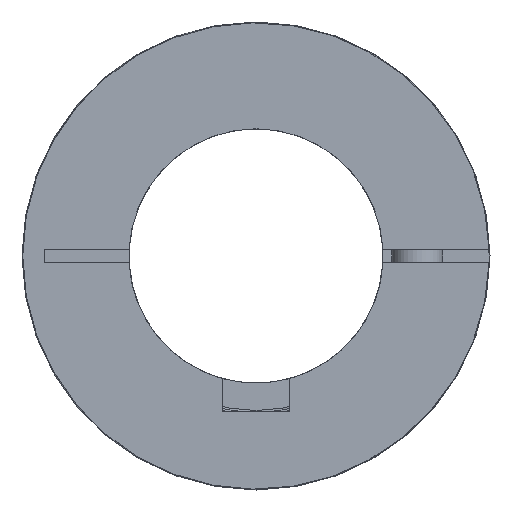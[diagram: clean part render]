
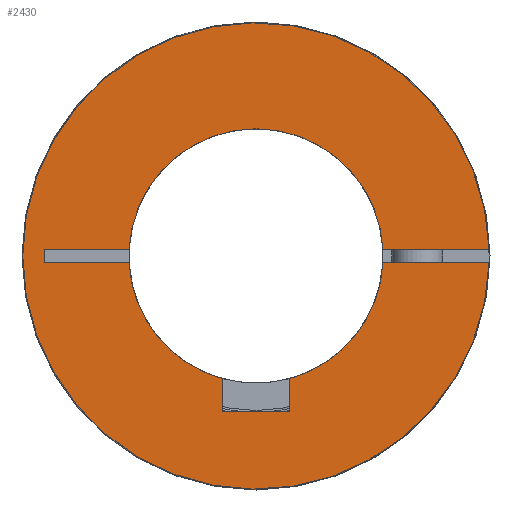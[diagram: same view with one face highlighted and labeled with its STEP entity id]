
A CAD part, left-side view. The second image highlights one B-rep face of the part: STEP entity #2430.
In plain terms, the highlighted planar face has unit normal (-1, 0, 0).
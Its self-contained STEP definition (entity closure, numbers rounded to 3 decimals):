
#88=PLANE('',#2715);
#184=LINE('',#4124,#294);
#186=LINE('',#4128,#296);
#188=LINE('',#4131,#298);
#198=LINE('',#4154,#308);
#201=LINE('',#4164,#311);
#204=LINE('',#4170,#314);
#205=LINE('',#4171,#315);
#206=LINE('',#4173,#316);
#294=VECTOR('',#3257,1.);
#296=VECTOR('',#3261,1.);
#298=VECTOR('',#3265,1.);
#308=VECTOR('',#3289,1000.);
#311=VECTOR('',#3298,1000.);
#314=VECTOR('',#3303,1000.);
#315=VECTOR('',#3304,1000.);
#316=VECTOR('',#3305,1000.);
#435=FACE_OUTER_BOUND('',#583,.T.);
#583=EDGE_LOOP('',(#1818,#1819,#1820,#1821,#1822,#1823,#1824,#1825,#1826,
#1827,#1828,#1829));
#856=CIRCLE('',#2692,15.);
#858=CIRCLE('',#2694,15.);
#859=CIRCLE('',#2696,15.);
#867=CIRCLE('',#2716,27.5);
#1089=VERTEX_POINT('',#4084);
#1090=VERTEX_POINT('',#4086);
#1093=VERTEX_POINT('',#4092);
#1094=VERTEX_POINT('',#4094);
#1095=VERTEX_POINT('',#4098);
#1096=VERTEX_POINT('',#4099);
#1105=VERTEX_POINT('',#4122);
#1106=VERTEX_POINT('',#4126);
#1112=VERTEX_POINT('',#4153);
#1116=VERTEX_POINT('',#4163);
#1118=VERTEX_POINT('',#4169);
#1119=VERTEX_POINT('',#4172);
#1376=EDGE_CURVE('',#1090,#1089,#856,.T.);
#1380=EDGE_CURVE('',#1094,#1093,#858,.T.);
#1382=EDGE_CURVE('',#1095,#1096,#859,.T.);
#1394=EDGE_CURVE('',#1093,#1105,#184,.T.);
#1396=EDGE_CURVE('',#1105,#1106,#186,.T.);
#1398=EDGE_CURVE('',#1106,#1090,#188,.T.);
#1410=EDGE_CURVE('',#1094,#1112,#198,.T.);
#1415=EDGE_CURVE('',#1116,#1095,#201,.T.);
#1418=EDGE_CURVE('',#1118,#1089,#204,.T.);
#1419=EDGE_CURVE('',#1116,#1118,#205,.T.);
#1420=EDGE_CURVE('',#1096,#1119,#206,.T.);
#1421=EDGE_CURVE('',#1119,#1112,#867,.T.);
#1818=ORIENTED_EDGE('',*,*,#1380,.T.);
#1819=ORIENTED_EDGE('',*,*,#1394,.T.);
#1820=ORIENTED_EDGE('',*,*,#1396,.T.);
#1821=ORIENTED_EDGE('',*,*,#1398,.T.);
#1822=ORIENTED_EDGE('',*,*,#1376,.T.);
#1823=ORIENTED_EDGE('',*,*,#1418,.F.);
#1824=ORIENTED_EDGE('',*,*,#1419,.F.);
#1825=ORIENTED_EDGE('',*,*,#1415,.T.);
#1826=ORIENTED_EDGE('',*,*,#1382,.T.);
#1827=ORIENTED_EDGE('',*,*,#1420,.T.);
#1828=ORIENTED_EDGE('',*,*,#1421,.T.);
#1829=ORIENTED_EDGE('',*,*,#1410,.F.);
#2430=ADVANCED_FACE('',(#435),#88,.T.);
#2692=AXIS2_PLACEMENT_3D('',#4087,#3224,#3225);
#2694=AXIS2_PLACEMENT_3D('',#4095,#3230,#3231);
#2696=AXIS2_PLACEMENT_3D('',#4100,#3235,#3236);
#2715=AXIS2_PLACEMENT_3D('',#4168,#3301,#3302);
#2716=AXIS2_PLACEMENT_3D('',#4174,#3306,#3307);
#3224=DIRECTION('center_axis',(1.,0.,0.));
#3225=DIRECTION('ref_axis',(0.,0.,-1.));
#3230=DIRECTION('center_axis',(1.,0.,0.));
#3231=DIRECTION('ref_axis',(0.,0.,-1.));
#3235=DIRECTION('center_axis',(1.,0.,0.));
#3236=DIRECTION('ref_axis',(0.,0.,-1.));
#3257=DIRECTION('',(0.,0.,-1.));
#3261=DIRECTION('',(0.,1.,0.));
#3265=DIRECTION('',(0.,0.,1.));
#3289=DIRECTION('',(0.,-1.,0.));
#3298=DIRECTION('',(0.,-1.,0.));
#3301=DIRECTION('center_axis',(-1.,0.,0.));
#3302=DIRECTION('ref_axis',(0.,1.,0.));
#3303=DIRECTION('',(0.,-1.,0.));
#3304=DIRECTION('',(0.,0.,-1.));
#3305=DIRECTION('',(0.,-1.,0.));
#3306=DIRECTION('center_axis',(-1.,0.,0.));
#3307=DIRECTION('ref_axis',(0.,1.,0.));
#4084=CARTESIAN_POINT('',(0.,14.981,-0.75));
#4086=CARTESIAN_POINT('',(0.,4.,-14.457));
#4087=CARTESIAN_POINT('Origin',(0.,0.,0.));
#4092=CARTESIAN_POINT('',(0.,-4.,-14.457));
#4094=CARTESIAN_POINT('',(0.,-14.981,-0.75));
#4095=CARTESIAN_POINT('Origin',(0.,0.,0.));
#4098=CARTESIAN_POINT('',(0.,14.981,0.75));
#4099=CARTESIAN_POINT('',(0.,-14.981,0.75));
#4100=CARTESIAN_POINT('Origin',(0.,0.,0.));
#4122=CARTESIAN_POINT('',(0.,-4.,-18.3));
#4124=CARTESIAN_POINT('',(0.,-4.,-7.075));
#4126=CARTESIAN_POINT('',(0.,4.,-18.3));
#4128=CARTESIAN_POINT('',(0.,0.,-18.3));
#4131=CARTESIAN_POINT('',(0.,4.,-7.075));
#4153=CARTESIAN_POINT('',(0.,-27.49,-0.75));
#4154=CARTESIAN_POINT('',(0.,25.,-0.75));
#4163=CARTESIAN_POINT('',(0.,25.,0.75));
#4164=CARTESIAN_POINT('',(0.,25.,0.75));
#4168=CARTESIAN_POINT('Origin',(0.,0.,-5.));
#4169=CARTESIAN_POINT('',(0.,25.,-0.75));
#4170=CARTESIAN_POINT('',(0.,25.,-0.75));
#4171=CARTESIAN_POINT('',(0.,25.,0.75));
#4172=CARTESIAN_POINT('',(0.,-27.49,0.75));
#4173=CARTESIAN_POINT('',(0.,25.,0.75));
#4174=CARTESIAN_POINT('Origin',(0.,0.,0.));
